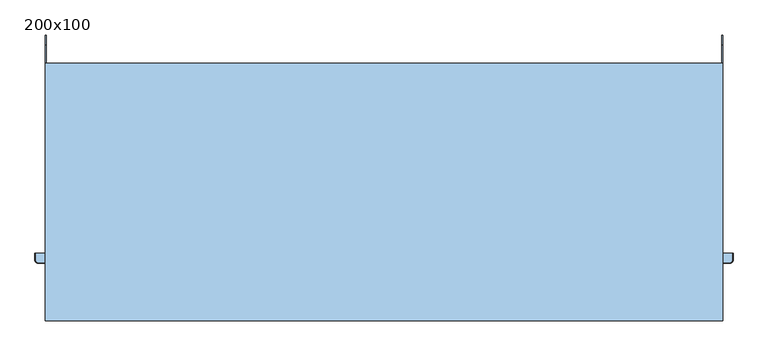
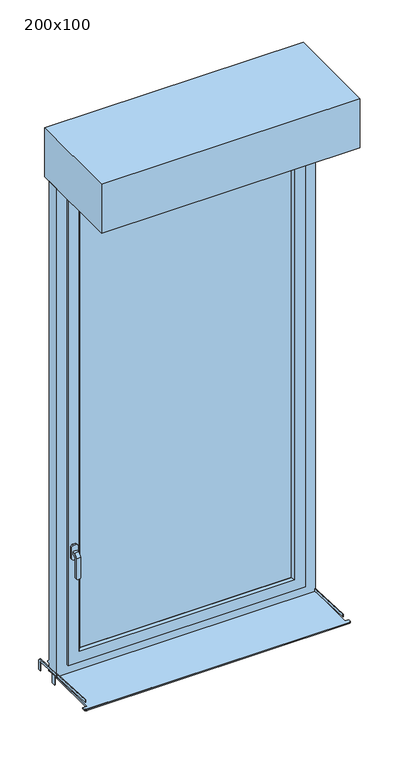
"""IFC4 building model written with IfcOpenShell, lengths in millimetres: window geometry, Tunnel 1V+VR+ Voile : 200x100."""

import ifcopenshell
import ifcopenshell.guid

model = None  # the IFC model being written
_history = None  # IfcOwnerHistory: only IFC2X3 demands one
_inside = {}  # id of a spatial element -> (the spatial element, [elements in it])
_under = {}  # id of a project, library or spatial element -> (it, [spatial elements below it])
_declared = {}  # id of a project -> (the project, [libraries it declares])
_typed = {}  # id of a type object -> (the type object, [elements of that type])
_made_of = {}  # id of a material, layer set ... -> (it, [elements and type objects made of it])


def new_model(schema):
    """Start an empty IFC model of exactly this schema.

    Asked for "IFC4X3", IfcOpenShell would pick the latest addendum, in which some entities
    have other attributes; the version numbers below select the first issue.
    IFC2X3 requires an IfcOwnerHistory on every rooted entity: one is made here for all.
    """
    global model, _history
    if schema == "IFC4X3":
        model = ifcopenshell.file(schema_version=(4, 3, 0, 0))
    else:
        model = ifcopenshell.file(schema=schema)
    _inside.clear()
    _under.clear()
    _declared.clear()
    _typed.clear()
    _made_of.clear()
    _history = None
    if model.schema == "IFC2X3":
        org = make("IfcOrganization", Name="unknown")
        user = make(
            "IfcPersonAndOrganization",
            ThePerson=make("IfcPerson", FamilyName="unknown"),
            TheOrganization=org,
        )
        app = make(
            "IfcApplication",
            ApplicationDeveloper=org,
            Version="unknown",
            ApplicationFullName="unknown",
            ApplicationIdentifier="unknown",
        )
        _history = make(
            "IfcOwnerHistory",
            OwningUser=user,
            OwningApplication=app,
            ChangeAction="ADDED",
            CreationDate=0,
        )
    return model


def make(cls, **values):
    """One entity of the class cls with the attributes given. An attribute that is None is left unset."""
    return model.create_entity(
        cls, **{name: value for name, value in values.items() if value is not None}
    )


def rooted(cls, **values):
    """An entity with a GlobalId (a new one), such as an element, a storey or a relation."""
    return make(cls, GlobalId=ifcopenshell.guid.new(), OwnerHistory=_history, **values)


def si_unit(unit_type, name, prefix=None):
    """IfcSIUnit, for example si_unit("LENGTHUNIT", "METRE", prefix="MILLI")."""
    return make("IfcSIUnit", UnitType=unit_type, Prefix=prefix, Name=name)


def assignment(units):
    """IfcUnitAssignment: the units of a project."""
    return None if units is None else make("IfcUnitAssignment", Units=units)


def point(xyz):
    """IfcCartesianPoint."""
    return None if xyz is None else make("IfcCartesianPoint", Coordinates=xyz)


def direction(xyz):
    """IfcDirection."""
    return None if xyz is None else make("IfcDirection", DirectionRatios=xyz)


def frame(location, z_axis=None, x_axis=None):
    """IfcAxis2Placement3D, a coordinate frame: its origin and axes. An axis left out is left unset."""
    return make(
        "IfcAxis2Placement3D",
        Location=point(location),
        Axis=direction(z_axis),
        RefDirection=direction(x_axis),
    )


def frame_2d(location, x_axis=None):
    """IfcAxis2Placement2D, a coordinate frame in the plane: its origin and x axis."""
    return make(
        "IfcAxis2Placement2D", Location=point(location), RefDirection=direction(x_axis)
    )


def origin():
    """The frame at (0, 0, 0) with its axes left unset."""
    return frame((0.0, 0.0, 0.0))


def place(relative_to, where):
    """IfcLocalPlacement: puts the frame where relative to a parent placement (None: the world)."""
    return make(
        "IfcLocalPlacement", PlacementRelTo=relative_to, RelativePlacement=where
    )


def context(
    kind, dimensions, precision=None, world=None, true_north=None, identifier=None
):
    """IfcGeometricRepresentationContext, for example the 3D "Model" context."""
    return make(
        "IfcGeometricRepresentationContext",
        ContextIdentifier=identifier,
        ContextType=kind,
        CoordinateSpaceDimension=dimensions,
        Precision=precision,
        WorldCoordinateSystem=world,
        TrueNorth=true_north,
    )


def project(units=None, contexts=None):
    """IfcProject with its units and contexts."""
    return rooted(
        "IfcProject",
        Name="project",
        RepresentationContexts=contexts,
        UnitsInContext=assignment(units),
    )


def spatial(cls, under=None, at=None, **own):
    """A site, building, storey or space (cls), placed at a placement, below another one or the project."""
    s = rooted(cls, ObjectPlacement=at, **own)
    if under is not None:
        _under.setdefault(under.id(), (under, []))[1].append(s)
    return s


def polyline(points):
    """IfcPolyline through the points."""
    return make("IfcPolyline", Points=[point(p) for p in points])


def circle_curve(where, radius):
    """IfcCircle in the frame where."""
    return make("IfcCircle", Position=where, Radius=radius)


def trimmed(basis, trim1, trim2, sense, master):
    """IfcTrimmedCurve: the piece of a basis curve between two trims."""
    return make(
        "IfcTrimmedCurve",
        BasisCurve=basis,
        Trim1=trim1,
        Trim2=trim2,
        SenseAgreement=sense,
        MasterRepresentation=master,
    )


def segment(curve, same_sense, transition):
    """IfcCompositeCurveSegment."""
    return make(
        "IfcCompositeCurveSegment",
        Transition=transition,
        SameSense=same_sense,
        ParentCurve=curve,
    )


def composite_curve(segments, self_intersect=None):
    """IfcCompositeCurve: segments joined end to end."""
    return make("IfcCompositeCurve", Segments=segments, SelfIntersect=self_intersect)


def outline(outer, holes=None, kind="AREA"):
    """IfcArbitraryClosedProfileDef: a profile drawn as a closed curve; with holes, ...WithVoids."""
    if holes is None:
        return make("IfcArbitraryClosedProfileDef", ProfileType=kind, OuterCurve=outer)
    return make(
        "IfcArbitraryProfileDefWithVoids",
        ProfileType=kind,
        OuterCurve=outer,
        InnerCurves=holes,
    )


def extrude(swept, where, along, depth):
    """IfcExtrudedAreaSolid: the profile swept, set in the frame where, extruded along a direction by depth."""
    return make(
        "IfcExtrudedAreaSolid",
        SweptArea=swept,
        Position=where,
        ExtrudedDirection=direction(along),
        Depth=depth,
    )


def faces_of(points, faces, orient=None, outer=None):
    """IfcFace entities. A face is a list of loops; a loop is a list of indices into points, from 0.

    orient and outer hold one flag for each loop. By default every Orientation is true, the
    first loop of a face is its IfcFaceOuterBound and the others are IfcFaceBound.
    """
    made = []
    for i, loops in enumerate(faces):
        bounds = []
        for j, loop in enumerate(loops):
            is_outer = j == 0 if outer is None else outer[i][j]
            bounds.append(
                make(
                    "IfcFaceOuterBound" if is_outer else "IfcFaceBound",
                    Bound=make("IfcPolyLoop", Polygon=[points[k] for k in loop]),
                    Orientation=True if orient is None else orient[i][j],
                )
            )
        made.append(make("IfcFace", Bounds=bounds))
    return made


def faceted_brep(points, faces, orient=None, outer=None, voids=None):
    """IfcFacetedBrep: a solid bounded by flat faces; with voids (closed shells), ...WithVoids."""
    shared = [point(p) for p in points]
    hull = make("IfcClosedShell", CfsFaces=faces_of(shared, faces, orient, outer))
    if voids is None:
        return make("IfcFacetedBrep", Outer=hull)
    return make(
        "IfcFacetedBrepWithVoids",
        Outer=hull,
        Voids=[
            make(cls, CfsFaces=faces_of(shared, fs, o, b)) for cls, fs, o, b in voids
        ],
    )


def shape(context_of_items, identifier, shape_type, items):
    """IfcShapeRepresentation: the items that make up one representation, for example the "Body"."""
    return make(
        "IfcShapeRepresentation",
        ContextOfItems=context_of_items,
        RepresentationIdentifier=identifier,
        RepresentationType=shape_type,
        Items=items,
    )


def source(mapping_origin, context_of_items, identifier, shape_type, items):
    """IfcRepresentationMap: a shape defined once, which mapped items show again and again."""
    return make(
        "IfcRepresentationMap",
        MappingOrigin=mapping_origin,
        MappedRepresentation=shape(context_of_items, identifier, shape_type, items),
    )


def transform(
    local_origin,
    x_axis=None,
    y_axis=None,
    z_axis=None,
    scale=None,
    scale2=None,
    scale3=None,
    uniform=True,
):
    """IfcCartesianTransformationOperator3D, or its non-uniform kind. x_axis, y_axis, z_axis: its Axis1, 2, 3."""
    if uniform:
        return make(
            "IfcCartesianTransformationOperator3D",
            Axis1=direction(x_axis),
            Axis2=direction(y_axis),
            LocalOrigin=point(local_origin),
            Scale=scale,
            Axis3=direction(z_axis),
        )
    return make(
        "IfcCartesianTransformationOperator3DnonUniform",
        Axis1=direction(x_axis),
        Axis2=direction(y_axis),
        LocalOrigin=point(local_origin),
        Scale=scale,
        Axis3=direction(z_axis),
        Scale2=scale2,
        Scale3=scale3,
    )


def mapped(mapping_source, mapping_target):
    """IfcMappedItem: shows the shape of a source again, moved by a transform."""
    return make(
        "IfcMappedItem", MappingSource=mapping_source, MappingTarget=mapping_target
    )


def made_of(thing, what):
    """Note that an element or type object is made of a material, layer set ...; save() writes the relation."""
    if what is not None:
        _made_of.setdefault(what.id(), (what, []))[1].append(thing)
    return thing


def element(
    cls,
    number,
    at=None,
    inside=None,
    cuts=None,
    type_object=None,
    material=None,
    context=None,
    identifier="Body",
    shape_type=None,
    held_by="IfcProductDefinitionShape",
    body=None,
    shapes=None,
    **own,
):
    """One element of the class cls, such as IfcWall. Its Tag is "e" and its number.

    at: its placement. inside: the storey or other place that contains it. cuts: it is an
    opening in that element (IfcRelVoidsElement). A single representation is given by context,
    identifier, shape_type and body (its items); several are given by shapes. held_by: the class
    of the entity that holds the representations. save() writes the other relations.
    """
    e = rooted(cls, Tag="e%d" % number, ObjectPlacement=at, **own)
    if body is not None:
        shapes = [shape(context, identifier, shape_type, body)]
    if shapes is not None:
        e.Representation = make(held_by, Representations=shapes)
    if inside is not None:
        _inside.setdefault(inside.id(), (inside, []))[1].append(e)
    if cuts is not None:
        rooted(
            "IfcRelVoidsElement", RelatingBuildingElement=cuts, RelatedOpeningElement=e
        )
    if type_object is not None:
        _typed.setdefault(type_object.id(), (type_object, []))[1].append(e)
    return made_of(e, material)


def aggregate(whole, parts):
    """IfcRelAggregates: a whole, such as a stair, and the parts it consists of."""
    return rooted("IfcRelAggregates", RelatingObject=whole, RelatedObjects=parts)


def save(model, path):
    """Write the relations noted so far, then the file.

    IfcRelAggregates (storeys below a building ...), IfcRelContainedInSpatialStructure (elements
    in a storey), IfcRelDefinesByType, IfcRelAssociatesMaterial and IfcRelDeclares: one each for
    every whole, place, type object, material and project.
    """
    for whole, parts in _under.values():
        aggregate(whole, parts)
    for where, things in _inside.values():
        rooted(
            "IfcRelContainedInSpatialStructure",
            RelatedElements=things,
            RelatingStructure=where,
        )
    for kind, things in _typed.values():
        rooted("IfcRelDefinesByType", RelatedObjects=things, RelatingType=kind)
    for what, things in _made_of.values():
        rooted("IfcRelAssociatesMaterial", RelatedObjects=things, RelatingMaterial=what)
    for by, libraries in _declared.values():
        rooted("IfcRelDeclares", RelatingContext=by, RelatedDefinitions=libraries)
    model.write(path)


def plane_surface(at):
    """IfcPlane: the flat surface through the origin of the frame at, square to its z axis."""
    return make("IfcPlane", Position=at)


def cylinder_surface(at, radius):
    """IfcCylindricalSurface: all points at the distance radius from the z axis of the frame at."""
    return make("IfcCylindricalSurface", Position=at, Radius=radius)


def revolved_surface(curve, axis_point, axis_direction):
    """IfcSurfaceOfRevolution: the curve turned about the line through axis_point along axis_direction."""
    return make(
        "IfcSurfaceOfRevolution",
        SweptCurve=make("IfcArbitraryOpenProfileDef", ProfileType="CURVE", Curve=curve),
        AxisPosition=make("IfcAxis1Placement", Location=point(axis_point), Axis=direction(axis_direction)),
    )


def advanced_brep(points, edges, surfaces, faces):
    """IfcAdvancedBrep: a solid bounded by faces that lie on surfaces and meet in shared edges.

    An edge is (start, end): straight between two places in points (the first is 0);
    or (start, end, curve); or (start, end, curve, False) where it runs against its curve.
    A face is (place in surfaces, loops), or (place, loops, False) where it looks against
    its surface's normal. A loop lists edges by number (the first is 1), with a minus sign
    where the edge is run from its end to its start. The first loop is the outer one.
    """
    corners = [point(p) for p in points]
    vertices = [make("IfcVertexPoint", VertexGeometry=c) for c in corners]
    made = []
    for start, end, *more in edges:
        made.append(
            make(
                "IfcEdgeCurve",
                EdgeStart=vertices[start],
                EdgeEnd=vertices[end],
                EdgeGeometry=more[0] if more else make("IfcPolyline", Points=[corners[start], corners[end]]),
                SameSense=more[1] if len(more) > 1 else True,
            )
        )
    hull = []
    for where, loops, *sense in faces:
        bounds = []
        for j, loop in enumerate(loops):
            ring = [make("IfcOrientedEdge", EdgeElement=made[abs(k) - 1], Orientation=k > 0) for k in loop]
            bounds.append(
                make(
                    "IfcFaceOuterBound" if j == 0 else "IfcFaceBound",
                    Bound=make("IfcEdgeLoop", EdgeList=ring),
                    Orientation=True,
                )
            )
        hull.append(make("IfcAdvancedFace", Bounds=bounds, FaceSurface=surfaces[where], SameSense=sense[0] if sense else True))
    return make("IfcAdvancedBrep", Outer=make("IfcClosedShell", CfsFaces=hull))


def window_200x100_8459d8a5(model_context):
    return source(origin(), model_context, "Body", "SolidModel", [
        faceted_brep([(-445.5, 87.0, 1306.0), (-429.5, 87.0, 1306.0), (-429.5, 87.0, 1294.0), (-445.5, 87.0, 1294.0), (-445.5, 74.5147186, 1306.0), (-429.5, 74.5147186, 1306.0), (-429.5, 61.0, 1292.4852814), (-429.5, 61.0, 1208.5355339), (-429.5, 70.2419861, 1208.5355339), (-429.5, 72.9900091, 1287.2286157), (-429.5, 73.0, 1287.5147186), (-429.5, 79.4852814, 1294.0), (-445.5, 79.4852814, 1294.0), (-445.5, 73.0, 1287.5147186), (-445.5, 73.0, 1287.2282668), (-445.5, 70.2419861, 1208.5355339), (-445.5, 61.0, 1208.5355339), (-445.5, 61.0, 1292.4852814), (-433.0355339, 61.0, 1205.0), (-441.9644661, 61.0, 1205.0), (-441.9644661, 70.1185225, 1205.0), (-433.0355339, 70.1185225, 1205.0)], [[[0, 1, 2, 3]], [[1, 0, 4, 5]], [[2, 1, 5, 6, 7, 8, 9, 10, 11]], [[3, 2, 11, 12]], [[0, 3, 12, 13, 14, 15, 16, 17, 4]], [[5, 4, 17, 6]], [[11, 10, 13, 12]], [[18, 19, 20, 21]], [[6, 17, 16, 19, 18, 7]], [[13, 10, 9, 14]], [[14, 9, 8, 21, 20, 15]], [[8, 7, 18, 21]], [[16, 15, 20, 19]]]),
        extrude(outline(polyline([(1330.0, -444.5), (1325.0, -449.5), (1275.0, -449.5), (1270.0, -444.5), (1270.0, -430.5), (1275.0, -425.5), (1325.0, -425.5), (1330.0, -430.5), (1330.0, -444.5)])), frame((0.0, 87.0, 0.0), z_axis=(0.0, 1.0, 0.0), x_axis=(0.0, 0.0, 1.0)), (0.0, 0.0, 1.0), 8.0),
        extrude(outline(polyline([(115.0, 799.2138833), (130.0, 798.4277666), (130.0, 762.0), (115.0, 762.0), (115.0, 799.2138833)])), frame((-500.0, 0.0, 0.0), z_axis=(1.0, 0.0, 0.0), x_axis=(0.0, 1.0, 0.0)), (0.0, 0.0, 1.0), 2.0),
        extrude(outline(polyline([(130.0, 798.4277666), (130.0, 762.0), (115.0, 762.0), (115.0, 799.2138833), (130.0, 798.4277666)])), frame((498.0, 0.0, 0.0), z_axis=(1.0, 0.0, 0.0), x_axis=(0.0, 1.0, 0.0)), (0.0, 0.0, 1.0), 2.0),
        extrude(outline(composite_curve([segment(polyline([(221.5, 762.0), (211.5, 762.0), (211.5, 795.1063906)]), True, "CONTINUOUS"), segment(trimmed(circle_curve(frame_2d((206.5, 795.1063906)), 5.0), [point((211.5, 795.1063906))], [point((206.7616798, 800.0995383))], True, "CARTESIAN"), True, "CONTINUOUS"), segment(polyline([(206.7616798, 800.0995383), (155.0, 802.812253), (155.0, 797.1175721), (150.0, 797.379611), (150.0, 803.0742919), (-90.0, 815.6521589), (-89.4766404, 825.6384543), (207.2850393, 810.0858337)]), True, "CONTINUOUS"), segment(trimmed(circle_curve(frame_2d((206.5, 795.1063906)), 15.0), [point((207.2850393, 810.0858337))], [point((221.5, 795.1063906))], False, "CARTESIAN"), True, "CONTINUOUS"), segment(polyline([(221.5, 795.1063906), (221.5, 762.0)]), True, "CONTINUOUS")], self_intersect=False)), frame((498.0, 0.0, 0.0), z_axis=(1.0, 0.0, 0.0), x_axis=(0.0, 1.0, 0.0)), (0.0, 0.0, 1.0), 2.0),
        extrude(outline(composite_curve([segment(polyline([(155.0, 797.1175721), (150.0, 797.379611), (150.0, 803.0742919), (-90.0, 815.6521589), (-89.4766404, 825.6384543), (207.2850393, 810.0858337)]), True, "CONTINUOUS"), segment(trimmed(circle_curve(frame_2d((206.5, 795.1063906)), 15.0), [point((207.2850393, 810.0858337))], [point((221.5, 795.1063906))], False, "CARTESIAN"), True, "CONTINUOUS"), segment(polyline([(221.5, 795.1063906), (221.5, 762.0), (211.5, 762.0), (211.5, 795.1063906)]), True, "CONTINUOUS"), segment(trimmed(circle_curve(frame_2d((206.5, 795.1063906)), 5.0), [point((211.5, 795.1063906))], [point((206.7616798, 800.0995383))], True, "CARTESIAN"), True, "CONTINUOUS"), segment(polyline([(206.7616798, 800.0995383), (155.0, 802.812253), (155.0, 797.1175721)]), True, "CONTINUOUS")], self_intersect=False)), frame((-500.0, 0.0, 0.0), z_axis=(1.0, 0.0, 0.0), x_axis=(0.0, 1.0, 0.0)), (0.0, 0.0, 1.0), 2.0),
        extrude(outline(polyline([(-410.0, 105.0), (-410.0, 125.0), (410.0, 125.0), (410.0, 105.0), (-410.0, 105.0)])), frame((0.0, 0.0, 890.0), z_axis=(0.0, 0.0, 1.0), x_axis=(1.0, 0.0, 0.0)), (0.0, 0.0, 1.0), 1820.0),
        faceted_brep([(-460.0, 95.0, 840.0), (-460.0, 135.0, 840.0), (460.0, 135.0, 840.0), (460.0, 95.0, 840.0), (460.0, 135.0, 2760.0), (460.0, 95.0, 2760.0), (-460.0, 135.0, 2760.0), (417.0710678, 135.0, 2717.0710678), (-417.0710678, 135.0, 2717.0710678), (-417.0710678, 135.0, 882.9289322), (417.0710678, 135.0, 882.9289322), (-460.0, 95.0, 2760.0), (417.0710678, 95.0, 882.9289322), (-417.0710678, 95.0, 882.9289322), (-417.0710678, 95.0, 2717.0710678), (417.0710678, 95.0, 2717.0710678), (-410.0, 102.0710678, 890.0), (410.0, 102.0710678, 890.0), (410.0, 102.0710678, 2710.0), (410.0, 127.9289322, 890.0), (410.0, 127.9289322, 2710.0), (-410.0, 127.9289322, 890.0), (-410.0, 102.0710678, 2710.0), (-410.0, 127.9289322, 2710.0)], [[[0, 1, 2, 3]], [[3, 2, 4, 5]], [[2, 1, 6, 4], [7, 8, 9, 10]], [[5, 11, 0, 3], [12, 13, 14, 15]], [[16, 13, 12, 17]], [[17, 12, 15, 18]], [[19, 17, 18, 20]], [[9, 21, 19, 10]], [[10, 19, 20, 7]], [[11, 6, 1, 0]], [[22, 14, 13, 16]], [[23, 22, 16, 21]], [[8, 23, 21, 9]], [[21, 16, 17, 19]], [[5, 4, 6, 11]], [[18, 15, 14, 22]], [[7, 20, 23, 8]], [[20, 18, 22, 23]]]),
        faceted_brep([(500.0, 150.0, 800.0), (500.0, 150.0, 830.0), (500.0, 160.0, 830.0), (500.0, 160.0, 835.0), (500.0, 150.0, 845.0), (500.0, 150.0, 2800.0), (500.0, 100.0, 2800.0), (500.0, 100.0, 800.0), (-500.0, 150.0, 800.0), (-500.0, 150.0, 830.0), (-500.0, 160.0, 830.0), (-500.0, 160.0, 835.0), (-500.0, 150.0, 845.0), (-455.0, 150.0, 845.0), (-450.0, 145.0, 850.0), (450.0, 145.0, 850.0), (455.0, 150.0, 845.0), (-500.0, 150.0, 2800.0), (455.0, 150.0, 2755.0), (-455.0, 150.0, 2755.0), (-500.0, 100.0, 2800.0), (-500.0, 100.0, 800.0), (460.0, 100.0, 840.0), (-460.0, 100.0, 840.0), (-460.0, 100.0, 2760.0), (460.0, 100.0, 2760.0), (460.0, 135.0, 840.0), (-460.0, 135.0, 840.0), (-460.0, 135.0, 2760.0), (460.0, 135.0, 2760.0), (450.0, 135.0, 850.0), (-450.0, 135.0, 850.0), (-450.0, 135.0, 2750.0), (450.0, 135.0, 2750.0), (-450.0, 145.0, 2750.0), (450.0, 145.0, 2750.0)], [[[0, 1, 2, 3, 4, 5, 6, 7]], [[1, 0, 8, 9]], [[2, 1, 9, 10]], [[3, 2, 10, 11]], [[3, 11, 12, 13, 14, 15, 16, 4]], [[17, 5, 4, 16, 18, 19, 13, 12]], [[7, 6, 20, 21], [22, 23, 24, 25]], [[0, 7, 21, 8]], [[8, 21, 20, 17, 12, 11, 10, 9]], [[23, 22, 26, 27]], [[27, 28, 24, 23]], [[22, 25, 29, 26]], [[29, 28, 27, 26], [30, 31, 32, 33]], [[31, 30, 15, 14]], [[34, 32, 31, 14]], [[33, 35, 15, 30]], [[35, 18, 16, 15]], [[19, 34, 14, 13]], [[5, 17, 20, 6]], [[28, 29, 25, 24]], [[33, 32, 34, 35]], [[19, 18, 35, 34]]]),
        advanced_brep(
        [(500.0, -100.0, 805.0), (500.0, 100.0, 805.0), (-500.0, 100.0, 805.0), (-500.0, -100.0, 805.0), (-513.9971508, -100.0, 805.0), (-513.9971508, -110.0, 805.0), (-510.0, -113.9971508, 805.0), (510.0, -113.9971508, 805.0), (513.9971508, -110.0, 805.0), (513.9971508, -100.0, 805.0), (-500.0, -100.0, 800.0), (-500.0, 100.0, 800.0), (500.0, 100.0, 800.0), (500.0, -100.0, 800.0), (513.9971508, -100.0, 800.0), (513.9971508, -110.0, 800.0), (510.0, -113.9971508, 800.0), (-510.0, -113.9971508, 800.0), (-513.9971508, -110.0, 800.0), (-513.9971508, -100.0, 800.0), (-515.0, -110.0, 801.0028492), (-515.0, -110.0, 803.9971508), (-515.0, -100.0, 803.9971508), (-515.0, -100.0, 801.0028492), (515.0, -100.0, 803.9971508), (515.0, -100.0, 801.0028492), (515.0, -110.0, 803.9971508), (515.0, -110.0, 801.0028492), (510.0, -115.0, 801.0028492), (510.0, -115.0, 803.9971508), (-510.0, -115.0, 803.9971508), (-510.0, -115.0, 801.0028492)],
        [
            (0, 1),
            (1, 2),
            (2, 3),
            (3, 4),
            (4, 5),
            (5, 6, circle_curve(frame((-510.0, -110.0, 805.0), z_axis=(0.0, 0.0, 1.0), x_axis=(-1.0, 0.0, 0.0)), 3.9971508)),
            (6, 7),
            (7, 8, circle_curve(frame((510.0, -110.0, 805.0), z_axis=(0.0, 0.0, 1.0), x_axis=(0.0, -1.0, 0.0)), 3.9971508)),
            (8, 9),
            (9, 0),
            (10, 11),
            (11, 12),
            (12, 13),
            (13, 14),
            (14, 15),
            (15, 16, circle_curve(frame((510.0, -110.0, 800.0), z_axis=(0.0, 0.0, -1.0), x_axis=(0.0, -1.0, 0.0)), 3.9971508)),
            (16, 17),
            (17, 18, circle_curve(frame((-510.0, -110.0, 800.0), z_axis=(0.0, 0.0, -1.0), x_axis=(-1.0, 0.0, 0.0)), 3.9971508)),
            (18, 19),
            (19, 10),
            (20, 21),
            (21, 22),
            (22, 23),
            (23, 20),
            (3, 10),
            (19, 23),
            (22, 4),
            (2, 11),
            (1, 12),
            (0, 13),
            (9, 24),
            (24, 25),
            (25, 14),
            (24, 26),
            (26, 27),
            (27, 25),
            (28, 29),
            (29, 30),
            (30, 31),
            (31, 28),
            (28, 27, circle_curve(frame((510.0, -110.0, 801.0028492), z_axis=(0.0, 0.0, 1.0), x_axis=(0.0, -1.0, 0.0)), 5.0)),
            (26, 29, circle_curve(frame((510.0, -110.0, 803.9971508), z_axis=(0.0, 0.0, -1.0), x_axis=(0.0, -1.0, 0.0)), 5.0)),
            (20, 31, circle_curve(frame((-510.0, -110.0, 801.0028492), z_axis=(0.0, 0.0, 1.0), x_axis=(0.0, -1.0, 0.0)), 5.0)),
            (30, 21, circle_curve(frame((-510.0, -110.0, 803.9971508), z_axis=(0.0, 0.0, -1.0), x_axis=(0.0, -1.0, 0.0)), 5.0)),
            (21, 5),
            (18, 20),
            (30, 6),
            (17, 31),
            (29, 7),
            (16, 28),
            (26, 8),
            (15, 27),
        ],
        [
            plane_surface(frame((-515.0, -100.0, 805.0), z_axis=(0.0, 0.0, 1.0), x_axis=(0.0, -1.0, 0.0))),
            plane_surface(frame((-515.0, -100.0, 800.0), z_axis=(0.0, 0.0, -1.0), x_axis=(0.0, 1.0, 0.0))),
            plane_surface(frame((-515.0, -110.0, 800.0), z_axis=(-1.0, 0.0, 0.0), x_axis=(0.0, 0.0, 1.0))),
            plane_surface(frame((-515.0, -100.0, 800.0), z_axis=(0.0, 1.0, 0.0), x_axis=(0.0, 0.0, 1.0))),
            plane_surface(frame((-500.0, -100.0, 800.0), z_axis=(-1.0, 0.0, 0.0), x_axis=(0.0, 0.0, 1.0))),
            plane_surface(frame((-500.0, 100.0, 800.0), z_axis=(0.0, 1.0, 0.0), x_axis=(0.0, 0.0, 1.0))),
            plane_surface(frame((500.0, 100.0, 800.0), z_axis=(1.0, 0.0, 0.0), x_axis=(0.0, 0.0, 1.0))),
            plane_surface(frame((500.0, -100.0, 800.0), z_axis=(0.0, 1.0, 0.0), x_axis=(0.0, 0.0, 1.0))),
            plane_surface(frame((515.0, -100.0, 800.0), z_axis=(1.0, 0.0, 0.0), x_axis=(0.0, 0.0, 1.0))),
            plane_surface(frame((510.0, -115.0, 800.0), z_axis=(0.0, -1.0, 0.0), x_axis=(0.0, 0.0, 1.0))),
            cylinder_surface(frame((510.0, -110.0, 805.0), z_axis=(0.0, 0.0, -1.0), x_axis=(0.0, -1.0, 0.0)), 5.0),
            cylinder_surface(frame((-510.0, -110.0, 805.0), z_axis=(0.0, 0.0, -1.0), x_axis=(0.0, -1.0, 0.0)), 5.0),
            plane_surface(frame((-513.9971508, -100.0, 805.0), z_axis=(-0.7071067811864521, 0.0, 0.707106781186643), x_axis=(0.0, -1.0, 0.0))),
            plane_surface(frame((-515.0, -100.0, 801.0028492), z_axis=(-0.7071067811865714, 0.0, -0.7071067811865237), x_axis=(0.0, -1.0, 0.0))),
            revolved_surface(polyline([(-515.0, -110.0, 803.9971508), (-513.9971508, -110.0, 805.0)]), (-510.0, -110.0, 805.0), (0.0, 0.0, 1.0)),
            revolved_surface(polyline([(-513.9971508, -110.0, 800.0), (-515.0, -110.0, 801.0028492)]), (-510.0, -110.0, 805.0), (0.0, 0.0, 1.0)),
            plane_surface(frame((-510.0, -113.9971508, 805.0), z_axis=(0.0, -0.7071067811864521, 0.707106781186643), x_axis=(1.0, 0.0, 0.0))),
            plane_surface(frame((-510.0, -115.0, 801.0028492), z_axis=(0.0, -0.7071067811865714, -0.7071067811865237), x_axis=(1.0, 0.0, 0.0))),
            revolved_surface(polyline([(510.0, -115.0, 803.9971508), (510.0, -113.9971508, 805.0)]), (510.0, -110.0, 805.0), (0.0, 0.0, 1.0)),
            revolved_surface(polyline([(510.0, -113.9971508, 800.0), (510.0, -115.0, 801.0028492)]), (510.0, -110.0, 805.0), (0.0, 0.0, 1.0)),
            plane_surface(frame((513.9971508, -110.0, 805.0), z_axis=(0.7071067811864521, 0.0, 0.707106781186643), x_axis=(0.0, 1.0, 0.0))),
            plane_surface(frame((515.0, -110.0, 801.0028492), z_axis=(0.7071067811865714, 0.0, -0.7071067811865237), x_axis=(0.0, 1.0, 0.0))),
        ],
        [
            (0, [[1, 2, 3, 4, 5, 6, 7, 8, 9, 10]]),
            (1, [[11, 12, 13, 14, 15, 16, 17, 18, 19, 20]]),
            (2, [[21, 22, 23, 24]]),
            (3, [[25, -20, 26, -23, 27, -4]]),
            (4, [[-3, 28, -11, -25]]),
            (5, [[-2, 29, -12, -28]]),
            (6, [[-1, 30, -13, -29]]),
            (7, [[-30, -10, 31, 32, 33, -14]]),
            (8, [[-32, 34, 35, 36]]),
            (9, [[37, 38, 39, 40]]),
            (10, [[-37, 41, -35, 42]]),
            (11, [[-21, 43, -39, 44]]),
            (12, [[45, -5, -27, -22]]),
            (13, [[46, -24, -26, -19]]),
            (14, [[-45, -44, 47, -6]]),
            (15, [[-46, -18, 48, -43]]),
            (16, [[-47, -38, 49, -7]]),
            (17, [[-48, -17, 50, -40]]),
            (18, [[-49, -42, 51, -8]]),
            (19, [[-50, -16, 52, -41]]),
            (20, [[-51, -34, -31, -9]]),
            (21, [[-52, -15, -33, -36]]),
        ],
    ),
        extrude(outline(polyline([(-500.0, -200.0), (-500.0, 180.0), (500.0, 180.0), (500.0, -200.0), (-500.0, -200.0)])), frame((0.0, 0.0, 2800.0), z_axis=(0.0, 0.0, 1.0), x_axis=(1.0, 0.0, 0.0)), (0.0, 0.0, 1.0), 200.0),
    ])


if __name__ == "__main__":
    model = new_model("IFC4")
    model_context = context("Model", 3, world=origin())
    ifc_project = project(units=[si_unit("LENGTHUNIT", "METRE", prefix="MILLI")], contexts=[model_context])
    site = spatial("IfcSite", under=ifc_project)
    building = spatial("IfcBuilding", under=site)
    placement = place(None, origin())
    window_200x100_shape = window_200x100_8459d8a5(model_context)
    element("IfcWindow", 1, ObjectType="Tunnel 1V+VR+ Voile : 200x100", at=placement, inside=building, context=model_context, shape_type="MappedRepresentation", body=[
        mapped(window_200x100_shape, transform((0.0, 0.0, 0.0), x_axis=(1.0, 0.0, 0.0), y_axis=(0.0, 1.0, 0.0), z_axis=(0.0, 0.0, 1.0))),
    ])
    save(model, "model.ifc")
